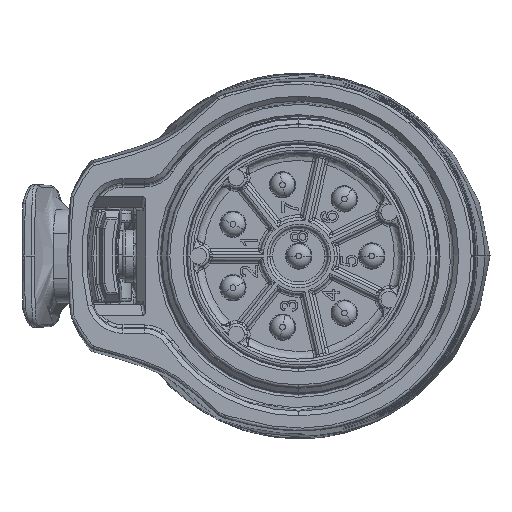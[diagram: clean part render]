
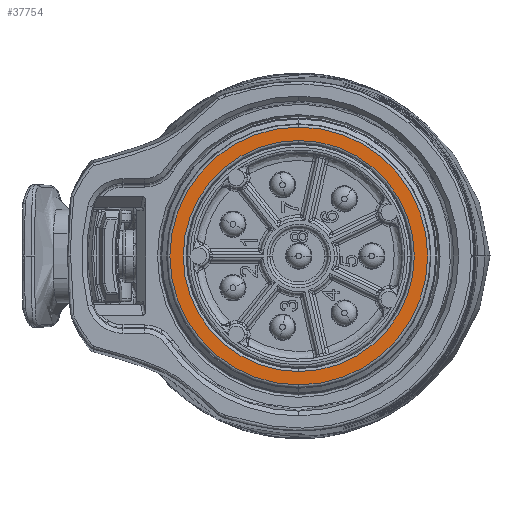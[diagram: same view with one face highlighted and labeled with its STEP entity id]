
A CAD part, left-side view. The second image highlights one B-rep face of the part: STEP entity #37754.
In plain terms, the highlighted planar face has unit normal (-1, 0, 0).
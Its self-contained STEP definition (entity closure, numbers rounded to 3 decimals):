
#939 = ORIENTED_EDGE ( 'NONE', *, *, #99811, .T. ) ;
#2089 = CARTESIAN_POINT ( 'NONE',  ( 0., 11.8, 0. ) ) ;
#2420 = EDGE_LOOP ( 'NONE', ( #107992, #939 ) ) ;
#5185 = VERTEX_POINT ( 'NONE', #63659 ) ;
#10361 = AXIS2_PLACEMENT_3D ( 'NONE', #38203, #71537, #16470 ) ;
#12252 = FACE_BOUND ( 'NONE', #55853, .T. ) ;
#12796 = EDGE_CURVE ( 'NONE', #57318, #126367, #125344, .T. ) ;
#13649 = CIRCLE ( 'NONE', #129210, 13.502 ) ;
#16470 = DIRECTION ( 'NONE',  ( 0., 0., -1. ) ) ;
#22747 = CARTESIAN_POINT ( 'NONE',  ( 0., 0., 12.101 ) ) ;
#27073 = EDGE_CURVE ( 'NONE', #126367, #57318, #102928, .T. ) ;
#34657 = VERTEX_POINT ( 'NONE', #106902 ) ;
#37754 = ADVANCED_FACE ( 'NONE', ( #12252, #92599 ), #70169, .F. ) ;
#37961 = AXIS2_PLACEMENT_3D ( 'NONE', #48366, #78827, #68680 ) ;
#38203 = CARTESIAN_POINT ( 'NONE',  ( 0., 0., 0. ) ) ;
#46292 = DIRECTION ( 'NONE',  ( 1., 0., 0. ) ) ;
#48366 = CARTESIAN_POINT ( 'NONE',  ( 0., 0., 0. ) ) ;
#50042 = AXIS2_PLACEMENT_3D ( 'NONE', #2089, #46292, #57167 ) ;
#55853 = EDGE_LOOP ( 'NONE', ( #103568, #107636 ) ) ;
#57167 = DIRECTION ( 'NONE',  ( 0., 0., -1. ) ) ;
#57318 = VERTEX_POINT ( 'NONE', #131718 ) ;
#63659 = CARTESIAN_POINT ( 'NONE',  ( 0., 0., -13.502 ) ) ;
#67295 = DIRECTION ( 'NONE',  ( 0., 0., -1. ) ) ;
#68008 = CARTESIAN_POINT ( 'NONE',  ( 0., 0., 0. ) ) ;
#68680 = DIRECTION ( 'NONE',  ( 0., 0., -1. ) ) ;
#70169 = PLANE ( 'NONE',  #50042 ) ;
#71537 = DIRECTION ( 'NONE',  ( 1., 0., 0. ) ) ;
#78827 = DIRECTION ( 'NONE',  ( -1., 0., 0. ) ) ;
#81410 = AXIS2_PLACEMENT_3D ( 'NONE', #68008, #132479, #67295 ) ;
#91480 = CARTESIAN_POINT ( 'NONE',  ( 0., 0., 0. ) ) ;
#92599 = FACE_OUTER_BOUND ( 'NONE', #2420, .T. ) ;
#99811 = EDGE_CURVE ( 'NONE', #34657, #5185, #121216, .T. ) ;
#102928 = CIRCLE ( 'NONE', #10361, 12.101 ) ;
#103568 = ORIENTED_EDGE ( 'NONE', *, *, #12796, .T. ) ;
#106902 = CARTESIAN_POINT ( 'NONE',  ( 0., 0., 13.502 ) ) ;
#107636 = ORIENTED_EDGE ( 'NONE', *, *, #27073, .T. ) ;
#107992 = ORIENTED_EDGE ( 'NONE', *, *, #136926, .T. ) ;
#121216 = CIRCLE ( 'NONE', #37961, 13.502 ) ;
#125344 = CIRCLE ( 'NONE', #81410, 12.101 ) ;
#126367 = VERTEX_POINT ( 'NONE', #22747 ) ;
#126895 = DIRECTION ( 'NONE',  ( -1., 0., 0. ) ) ;
#129210 = AXIS2_PLACEMENT_3D ( 'NONE', #91480, #126895, #136390 ) ;
#131718 = CARTESIAN_POINT ( 'NONE',  ( 0., 0., -12.101 ) ) ;
#132479 = DIRECTION ( 'NONE',  ( 1., 0., 0. ) ) ;
#136390 = DIRECTION ( 'NONE',  ( 0., 0., -1. ) ) ;
#136926 = EDGE_CURVE ( 'NONE', #5185, #34657, #13649, .T. ) ;
